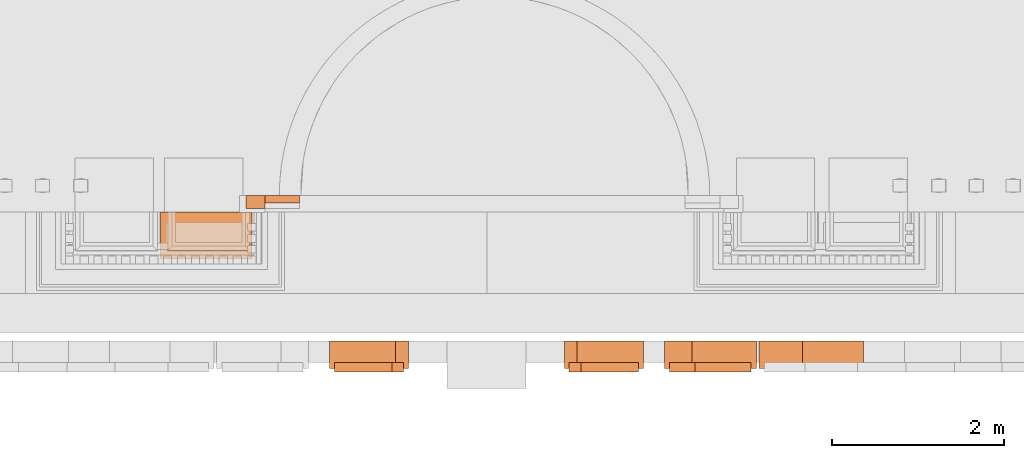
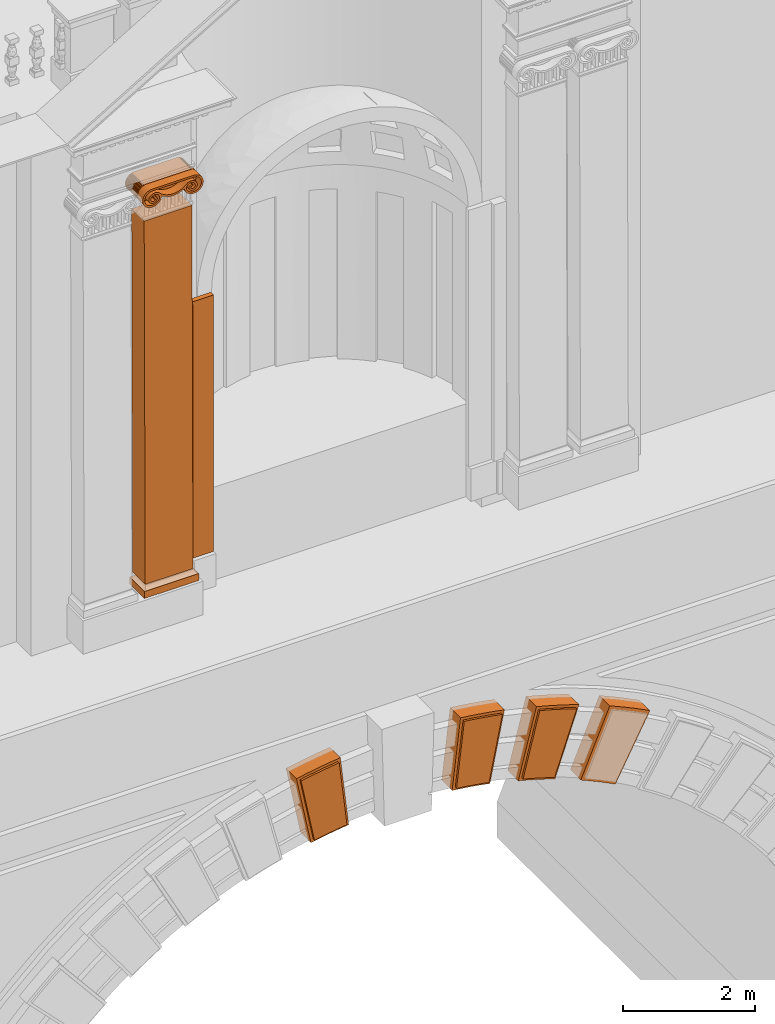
# One storey, part 8 of 44: 13 proxies.
"""IFC2X3 building model written with IfcOpenShell, lengths in metres."""

from ifc_helpers import new_model, entity, si_unit, converted_unit, derived_unit, direction, frame, frame_2d, origin, place, context, subcontext, project, spatial, polyline, circle_curve, parameter, trimmed, segment, composite_curve, rectangle, outline, extrude, material, element, save


model = new_model("IFC2X3")

# Units and contexts
model_context = context("Model", 3, precision=1e-05, world=origin(), true_north=direction((6.12303176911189e-17, 1.0)))
body_context = subcontext(model_context, "Body", "Model", "MODEL_VIEW")
ifc_project = project(units=[si_unit("LENGTHUNIT", "METRE"), si_unit("AREAUNIT", "SQUARE_METRE"), si_unit("VOLUMEUNIT", "CUBIC_METRE"), converted_unit("PLANEANGLEUNIT", "DEGREE", entity("IfcRatioMeasure", 0.0174532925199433), si_unit("PLANEANGLEUNIT", "RADIAN"), dimensions=[0, 0, 0, 0, 0, 0, 0]), si_unit("MASSUNIT", "GRAM", prefix="KILO"), derived_unit("MASSDENSITYUNIT", [(si_unit("MASSUNIT", "GRAM", prefix="KILO"), 1), (si_unit("LENGTHUNIT", "METRE"), -3)]), si_unit("TIMEUNIT", "SECOND"), si_unit("FREQUENCYUNIT", "HERTZ"), si_unit("THERMODYNAMICTEMPERATUREUNIT", "DEGREE_CELSIUS"), derived_unit("THERMALTRANSMITTANCEUNIT", [(si_unit("MASSUNIT", "GRAM", prefix="KILO"), 1), (si_unit("THERMODYNAMICTEMPERATUREUNIT", "KELVIN"), -1), (si_unit("TIMEUNIT", "SECOND"), -3)]), derived_unit("VOLUMETRICFLOWRATEUNIT", [(si_unit("LENGTHUNIT", "METRE"), 3), (si_unit("TIMEUNIT", "SECOND"), -1)]), si_unit("ELECTRICCURRENTUNIT", "AMPERE"), si_unit("ELECTRICVOLTAGEUNIT", "VOLT"), si_unit("POWERUNIT", "WATT"), si_unit("FORCEUNIT", "NEWTON", prefix="KILO"), si_unit("ILLUMINANCEUNIT", "LUX"), si_unit("LUMINOUSFLUXUNIT", "LUMEN"), si_unit("LUMINOUSINTENSITYUNIT", "CANDELA"), derived_unit("USERDEFINED", [(si_unit("MASSUNIT", "GRAM", prefix="KILO"), -1), (si_unit("LENGTHUNIT", "METRE"), -2), (si_unit("TIMEUNIT", "SECOND"), 3), (si_unit("LUMINOUSFLUXUNIT", "LUMEN"), 1)]), derived_unit("LINEARVELOCITYUNIT", [(si_unit("LENGTHUNIT", "METRE"), 1), (si_unit("TIMEUNIT", "SECOND"), -1)]), si_unit("PRESSUREUNIT", "PASCAL"), derived_unit("USERDEFINED", [(si_unit("LENGTHUNIT", "METRE"), -2), (si_unit("MASSUNIT", "GRAM", prefix="KILO"), 1), (si_unit("TIMEUNIT", "SECOND"), -2)])], contexts=[model_context])

# Site, building, storey
site_placement = place(None, origin())
site = spatial("IfcSite", under=ifc_project, at=site_placement, Name="Default", CompositionType="ELEMENT")
building_placement = place(site_placement, origin())
building = spatial("IfcBuilding", under=site, at=building_placement, CompositionType="ELEMENT")
storey_placement = place(building_placement, origin())
storey = spatial("IfcBuildingStorey", under=building, at=storey_placement, Name="Livello 1", CompositionType="ELEMENT", Elevation=0.0)

# Proxies
ifc_material_1 = material(Name="Piperno")
proxy_1_placement = place(storey_placement, frame((0.820457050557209, -0.554467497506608, 9.5136482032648)))
element("IfcBuildingElementProxy", 1, at=proxy_1_placement, inside=storey, material=ifc_material_1, Name="Stratigrafia", context=body_context, shape_type="SweptSolid", body=[
    extrude(outline(composite_curve([segment(trimmed(circle_curve(frame_2d((-1.33916111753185, 8.57467506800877), x_axis=(1.0, 0.0)), 9.33830961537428), [parameter(276.479772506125)], [parameter(281.273302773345)], True, "PARAMETER"), True, "CONTINUOUS"), segment(polyline([(0.486377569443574, -0.583459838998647), (0.231423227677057, 0.695563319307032)]), True, "CONTINUOUS"), segment(trimmed(circle_curve(frame_2d((-1.33916111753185, 8.57467506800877), x_axis=(1.0, 0.0)), 8.03412329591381), [parameter(276.479772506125)], [parameter(281.273302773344)], True, "PARAMETER"), False, "CONTINUOUS"), segment(polyline([(-0.432490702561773, 0.591875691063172), (-0.28531009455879, -0.703979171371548)]), True, "CONTINUOUS")], self_intersect=False)), frame((0.434085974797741, 0.0, 0.697158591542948), z_axis=(0.0, 1.0, 0.0), x_axis=(1.0, 0.0, 0.0)), (0.0, 0.0, 1.0), 0.32),
])
proxy_2_placement = place(storey_placement, frame((0.875762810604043, -0.594467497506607, 9.572306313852)))
element("IfcBuildingElementProxy", 2, at=proxy_2_placement, inside=storey, material=ifc_material_1, Name="Stratigrafia", context=body_context, shape_type="SweptSolid", body=[
    extrude(outline(composite_curve([segment(trimmed(circle_curve(frame_2d((-1.33809374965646, 8.5733681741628), x_axis=(1.0, 0.0)), 9.28496378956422), [parameter(276.782159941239)], [parameter(280.96038991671)], True, "PARAMETER"), True, "CONTINUOUS"), segment(polyline([(0.427259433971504, -0.542227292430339), (0.191822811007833, 0.638881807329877)]), True, "CONTINUOUS"), segment(trimmed(circle_curve(frame_2d((-1.33947047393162, 8.57665166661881), x_axis=(1.0, 0.0)), 8.08412329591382), [parameter(276.834147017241)], [parameter(280.918928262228)], True, "PARAMETER"), False, "CONTINUOUS"), segment(polyline([(-0.377494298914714, 0.549967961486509), (-0.241587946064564, -0.646622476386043)]), True, "CONTINUOUS")], self_intersect=False)), frame((0.379089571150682, 0.0, 0.640477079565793), z_axis=(0.0, 1.0, 0.0), x_axis=(1.0, 0.0, 0.0)), (0.0, 0.0, 1.0), 0.11),
])
proxy_3_placement = place(storey_placement, frame((1.9817328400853, -0.554467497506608, 9.19858808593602)))
element("IfcBuildingElementProxy", 3, at=proxy_3_placement, inside=storey, material=ifc_material_1, Name="Stratigrafia", context=body_context, shape_type="SweptSolid", body=[
    extrude(outline(composite_curve([segment(trimmed(circle_curve(frame_2d((-1.33916111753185, 8.57467506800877), x_axis=(1.0, 0.0)), 9.33830961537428), [parameter(276.479772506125)], [parameter(281.273302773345)], True, "PARAMETER"), True, "CONTINUOUS"), segment(polyline([(0.486377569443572, -0.583459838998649), (0.231423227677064, 0.695563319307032)]), True, "CONTINUOUS"), segment(trimmed(circle_curve(frame_2d((-1.33916111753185, 8.57467506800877), x_axis=(1.0, 0.0)), 8.03412329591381), [parameter(276.479772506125)], [parameter(281.273302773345)], True, "PARAMETER"), False, "CONTINUOUS"), segment(polyline([(-0.432490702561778, 0.591875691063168), (-0.285310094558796, -0.70397917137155)]), True, "CONTINUOUS")], self_intersect=False)), frame((0.508770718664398, 0.0, 0.721708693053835), z_axis=(0.0, 1.0, 0.0), x_axis=(0.991164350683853, 0.0, -0.132639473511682)), (0.0, 0.0, 1.0), 0.32),
])
proxy_4_placement = place(storey_placement, frame((2.0423707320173, -0.594467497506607, 9.26193945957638)))
element("IfcBuildingElementProxy", 4, at=proxy_4_placement, inside=storey, material=ifc_material_1, Name="Stratigrafia", context=body_context, shape_type="SweptSolid", body=[
    extrude(outline(composite_curve([segment(trimmed(circle_curve(frame_2d((-1.33809374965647, 8.5733681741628), x_axis=(1.0, 0.0)), 9.28496378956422), [parameter(276.782159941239)], [parameter(280.96038991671)], True, "PARAMETER"), True, "CONTINUOUS"), segment(polyline([(0.427259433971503, -0.54222729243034), (0.191822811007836, 0.638881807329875)]), True, "CONTINUOUS"), segment(trimmed(circle_curve(frame_2d((-1.33947047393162, 8.57665166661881), x_axis=(1.0, 0.0)), 8.08412329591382), [parameter(276.834147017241)], [parameter(280.918928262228)], True, "PARAMETER"), False, "CONTINUOUS"), segment(polyline([(-0.37749429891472, 0.54996796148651), (-0.241587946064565, -0.646622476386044)]), True, "CONTINUOUS")], self_intersect=False)), frame((0.448701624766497, 0.0, 0.660275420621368), z_axis=(0.0, 1.0, 0.0), x_axis=(0.991164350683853, 0.0, -0.132639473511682)), (0.0, 0.0, 1.0), 0.11),
])
proxy_5_placement = place(storey_placement, frame((3.07849043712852, -0.554467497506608, 8.73122797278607)))
element("IfcBuildingElementProxy", 5, at=proxy_5_placement, inside=storey, material=ifc_material_1, Name="Stratigrafia", context=body_context, shape_type="SweptSolid", body=[
    extrude(outline(composite_curve([segment(trimmed(circle_curve(frame_2d((-1.33916111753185, 8.57467506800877), x_axis=(1.0, 0.0)), 9.33830961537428), [parameter(276.479772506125)], [parameter(281.273302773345)], True, "PARAMETER"), True, "CONTINUOUS"), segment(polyline([(0.486377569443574, -0.583459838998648), (0.231423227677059, 0.695563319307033)]), True, "CONTINUOUS"), segment(trimmed(circle_curve(frame_2d((-1.33916111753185, 8.57467506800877), x_axis=(1.0, 0.0)), 8.03412329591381), [parameter(276.479772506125)], [parameter(281.273302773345)], True, "PARAMETER"), False, "CONTINUOUS"), segment(polyline([(-0.432490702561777, 0.591875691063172), (-0.285310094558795, -0.703979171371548)]), True, "CONTINUOUS")], self_intersect=False)), frame((0.584306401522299, 0.0, 0.734238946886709), z_axis=(0.0, 1.0, 0.0), x_axis=(0.958865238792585, 0.0, -0.283861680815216)), (0.0, 0.0, 1.0), 0.32),
])
proxy_6_placement = place(storey_placement, frame((-1.91175205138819, -0.554467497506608, 9.51364820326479)))
element("IfcBuildingElementProxy", 6, at=proxy_6_placement, inside=storey, material=ifc_material_1, Name="Stratigrafia", context=body_context, shape_type="SweptSolid", body=[
    extrude(outline(composite_curve([segment(polyline([(-0.667284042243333, -0.3629332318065), (0.636902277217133, -0.3629332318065)]), True, "CONTINUOUS"), segment(trimmed(circle_curve(frame_2d((8.67102557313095, -0.362933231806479), x_axis=(-0.112852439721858, 0.993611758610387)), 8.03412329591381), [parameter(78.726697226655)], [parameter(83.5202274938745)], True, "PARAMETER"), False, "CONTINUOUS"), segment(polyline([(0.665003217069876, 0.308440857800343), (-0.634621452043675, 0.417425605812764)]), True, "CONTINUOUS"), segment(trimmed(circle_curve(frame_2d((8.67102557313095, -0.362933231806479), x_axis=(-0.112852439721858, 0.993611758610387)), 9.33830961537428), [parameter(78.7266972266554)], [parameter(83.5202274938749)], True, "PARAMETER"), True, "CONTINUOUS")], self_intersect=False)), frame((0.487972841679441, 0.0, 0.69715859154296), z_axis=(0.0, 1.0, 0.0), x_axis=(0.112852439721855, 0.0, -0.993611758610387)), (0.0, 0.0, 1.0), 0.32),
])
proxy_7_placement = place(storey_placement, frame((-1.85294327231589, -0.594467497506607, 9.57230631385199)))
element("IfcBuildingElementProxy", 7, at=proxy_7_placement, inside=storey, material=ifc_material_1, Name="Stratigrafia", context=body_context, shape_type="SweptSolid", body=[
    extrude(outline(composite_curve([segment(trimmed(circle_curve(frame_2d((8.66960657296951, 0.362020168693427), x_axis=(-0.112852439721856, -0.993611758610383)), 9.28496378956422), [parameter(276.782159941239)], [parameter(280.96038991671)], True, "PARAMETER"), True, "CONTINUOUS"), segment(polyline([(-0.586980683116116, -0.363338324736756), (0.613152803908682, -0.262696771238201)]), True, "CONTINUOUS"), segment(trimmed(circle_curve(frame_2d((8.6730244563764, 0.363017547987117), x_axis=(-0.112852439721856, -0.993611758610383)), 8.08412329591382), [parameter(276.834147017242)], [parameter(280.918928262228)], True, "PARAMETER"), False, "CONTINUOUS"), segment(polyline([(0.589055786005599, 0.313017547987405), (-0.615227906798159, 0.313017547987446)]), True, "CONTINUOUS")], self_intersect=False)), frame((0.428854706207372, 0.0, 0.640477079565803), z_axis=(0.0, -1.0, 0.0), x_axis=(0.112852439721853, 0.0, -0.993611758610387)), (0.0, 0.0, -1.0), 0.11),
])
ifc_material_2 = material(Name="Travertino")
proxy_8_placement = place(storey_placement, frame((-2.87467065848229, 1.30166814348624, 13.9642305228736)))
element("IfcBuildingElementProxy", 8, at=proxy_8_placement, inside=storey, material=ifc_material_2, Name="Stratigrafia", context=body_context, shape_type="SweptSolid", body=[
    extrude(rectangle(XDim=4.7603058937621, YDim=0.151704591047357, at=frame_2d((0.0, 0.0), x_axis=(0.0, 1.0))), frame((0.0, 0.0758522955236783, 2.38015294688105), z_axis=(1.0, 0.0, 0.0), x_axis=(0.0, 1.0, 0.0)), (0.0, 0.0, 1.0), 0.219371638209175),
])
proxy_9_placement = place(storey_placement, frame((-2.65529902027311, 1.37016534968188, 13.9643763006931)))
element("IfcBuildingElementProxy", 9, at=proxy_9_placement, inside=storey, material=ifc_material_2, Name="Stratigrafia", context=body_context, shape_type="SweptSolid", body=[
    extrude(rectangle(XDim=4.76016011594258, YDim=0.0832073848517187, at=frame_2d((0.0, 0.0), x_axis=(0.0, 1.0))), frame((0.0, 0.0416036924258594, 2.38008005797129), z_axis=(1.0, 0.0, 0.0), x_axis=(0.0, 1.0, 0.0)), (0.0, 0.0, 1.0), 0.401853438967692),
])
proxy_10_placement = place(storey_placement, frame((-3.87111862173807, 0.723372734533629, 21.2504881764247)))
element("IfcBuildingElementProxy", 10, at=proxy_10_placement, inside=storey, material=ifc_material_2, Name="Stratigrafia", context=body_context, shape_type="SweptSolid", body=[
    extrude(outline(composite_curve([segment(trimmed(circle_curve(frame_2d((0.0787255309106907, -0.360085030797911), x_axis=(1.0, 0.0)), 0.16781941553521), [parameter(138.334994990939)], [parameter(7.37888686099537e-11)], True, "PARAMETER"), True, "CONTINUOUS"), segment(polyline([(0.246544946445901, -0.360085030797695), (0.201674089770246, 0.387005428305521)]), True, "CONTINUOUS"), segment(trimmed(circle_curve(frame_2d((0.0350610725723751, 0.366919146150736), x_axis=(0.992811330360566, 0.119689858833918)), 0.16781941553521), [parameter(359.999999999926)], [parameter(221.665005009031)], True, "PARAMETER"), True, "CONTINUOUS"), segment(trimmed(circle_curve(frame_2d((0.414185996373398, 0.768509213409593), x_axis=(-0.680862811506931, -0.732410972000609)), 0.720026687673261), [parameter(1.57246623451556e-11)], [parameter(0.524781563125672)], True, "PARAMETER"), True, "CONTINUOUS"), segment(trimmed(circle_curve(frame_2d((0.0654093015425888, 0.385758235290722), x_axis=(-0.675623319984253, -0.737246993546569)), 0.202201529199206), [parameter(5.00746529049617e-11)], [parameter(2.78712703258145)], True, "PARAMETER"), True, "CONTINUOUS"), segment(trimmed(circle_curve(frame_2d((0.00343027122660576, 0.311114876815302), x_axis=(-0.63911629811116, -0.76911010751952)), 0.105180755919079), [parameter(359.999999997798)], [parameter(5.29737023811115)], True, "PARAMETER"), True, "CONTINUOUS"), segment(trimmed(circle_curve(frame_2d((-0.012299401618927, 0.288731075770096), x_axis=(-0.561992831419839, -0.827142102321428)), 0.0778253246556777), [parameter(3.11948803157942e-10)], [parameter(11.8444704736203)], True, "PARAMETER"), True, "CONTINUOUS"), segment(trimmed(circle_curve(frame_2d((-0.00650885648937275, 0.302109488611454), x_axis=(-0.382936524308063, -0.923774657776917)), 0.0924010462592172), [parameter(5.64917400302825e-10)], [parameter(4.23396444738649)], True, "PARAMETER"), True, "CONTINUOUS"), segment(trimmed(circle_curve(frame_2d((0.0100793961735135, 0.315934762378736), x_axis=(0.273943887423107, 0.961745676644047)), 0.111318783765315), [parameter(171.73216175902)], [parameter(203.761085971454)], True, "PARAMETER"), True, "CONTINUOUS"), segment(trimmed(circle_curve(frame_2d((0.351764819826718, 0.021127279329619), x_axis=(-0.80538962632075, -0.592745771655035)), 0.375004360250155), [parameter(294.170004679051)], [parameter(359.999999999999)], True, "PARAMETER"), True, "CONTINUOUS"), segment(trimmed(circle_curve(frame_2d((0.0478211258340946, -0.31245721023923), x_axis=(0.387085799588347, -0.922043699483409)), 0.111318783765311), [parameter(156.238914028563)], [parameter(188.26783824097)], True, "PARAMETER"), True, "CONTINUOUS"), segment(trimmed(circle_curve(frame_2d((0.0296973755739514, -0.300716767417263), x_axis=(-0.49075017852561, 0.871300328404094)), 0.0924010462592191), [parameter(355.766035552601)], [parameter(359.999999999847)], True, "PARAMETER"), True, "CONTINUOUS"), segment(trimmed(circle_curve(frame_2d((0.0223471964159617, -0.288127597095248), x_axis=(-0.656953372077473, 0.753931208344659)), 0.0778253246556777), [parameter(348.155529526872)], [parameter(359.999999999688)], True, "PARAMETER"), True, "CONTINUOUS"), segment(trimmed(circle_curve(frame_2d((0.0406429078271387, -0.30846780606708), x_axis=(-0.726576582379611, 0.687085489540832)), 0.105180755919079), [parameter(354.702629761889)], [parameter(2.20252139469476e-09)], True, "PARAMETER"), True, "CONTINUOUS"), segment(trimmed(circle_curve(frame_2d((0.11111044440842, -0.37515631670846), x_axis=(-0.759007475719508, 0.651081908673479)), 0.202201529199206), [parameter(357.21287296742)], [parameter(359.999999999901)], True, "PARAMETER"), True, "CONTINUOUS"), segment(trimmed(circle_curve(frame_2d((0.503191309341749, -0.713410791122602), x_axis=(-0.763630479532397, 0.645653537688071)), 0.72002668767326), [parameter(359.475218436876)], [parameter(359.999999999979)], True, "PARAMETER"), True, "CONTINUOUS")], self_intersect=False), holes=[composite_curve([segment(trimmed(circle_curve(frame_2d((0.0296569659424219, -0.26637388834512), x_axis=(0.295331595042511, -0.955394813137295)), 0.160844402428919), [parameter(359.999999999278)], [parameter(5.20756886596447)], True, "PARAMETER"), True, "CONTINUOUS"), segment(trimmed(circle_curve(frame_2d((0.0478211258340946, -0.31245721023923), x_axis=(0.387085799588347, -0.922043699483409)), 0.111318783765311), [parameter(359.999999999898)], [parameter(121.742469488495)], True, "PARAMETER"), True, "CONTINUOUS"), segment(trimmed(circle_curve(frame_2d((0.351764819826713, 0.0211272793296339), x_axis=(-0.701786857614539, -0.712386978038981)), 0.341023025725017), [parameter(357.930960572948)], [parameter(1.17553301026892e-11)], True, "PARAMETER"), False, "CONTINUOUS"), segment(trimmed(circle_curve(frame_2d((0.351764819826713, 0.0211272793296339), x_axis=(-0.701786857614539, -0.712386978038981)), 0.341023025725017), [parameter(276.015284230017)], [parameter(357.930960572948)], True, "PARAMETER"), False, "CONTINUOUS"), segment(trimmed(circle_curve(frame_2d((0.0100793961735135, 0.315934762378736), x_axis=(0.273943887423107, 0.961745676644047)), 0.111318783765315), [parameter(238.257530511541)], [parameter(1.04576637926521e-10)], True, "PARAMETER"), True, "CONTINUOUS"), segment(trimmed(circle_curve(frame_2d((-0.00243848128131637, 0.268008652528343), x_axis=(0.178857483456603, 0.983874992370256)), 0.160844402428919), [parameter(354.792431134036)], [parameter(3.45942571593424e-10)], True, "PARAMETER"), True, "CONTINUOUS"), segment(trimmed(circle_curve(frame_2d((0.0120654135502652, 0.348551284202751), x_axis=(-0.97200284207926, 0.234969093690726)), 0.0790065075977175), [parameter(273.188220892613)], [parameter(2.02537722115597e-11)], True, "PARAMETER"), True, "CONTINUOUS"), segment(trimmed(circle_curve(frame_2d((0.0219940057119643, 0.352022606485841), x_axis=(-0.899948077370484, -0.435997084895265)), 0.0880266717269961), [parameter(324.278715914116)], [parameter(1.66915509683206e-11)], True, "PARAMETER"), True, "CONTINUOUS"), segment(trimmed(circle_curve(frame_2d((0.0068313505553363, 0.344085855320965), x_axis=(-0.691793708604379, -0.722095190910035)), 0.0709226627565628), [parameter(339.191403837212)], [parameter(359.999999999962)], True, "PARAMETER"), True, "CONTINUOUS"), segment(trimmed(circle_curve(frame_2d((-0.00441833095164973, 0.331612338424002), x_axis=(-0.0602856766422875, -0.998181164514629)), 0.0541354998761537), [parameter(319.148653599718)], [parameter(359.999999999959)], True, "PARAMETER"), True, "CONTINUOUS"), segment(polyline([(-0.00768192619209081, 0.277575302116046), (0.00455059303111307, 0.277674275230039)]), True, "CONTINUOUS"), segment(polyline([(0.00455059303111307, 0.277674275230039), (0.0163739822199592, 0.280802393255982)]), True, "CONTINUOUS"), segment(polyline([(0.0163739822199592, 0.280802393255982), (0.0270458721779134, 0.286763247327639)]), True, "CONTINUOUS"), segment(polyline([(0.0270458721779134, 0.286763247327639), (0.0358961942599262, 0.295182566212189)]), True, "CONTINUOUS"), segment(polyline([(0.0358961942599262, 0.295182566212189), (0.0423692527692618, 0.30553171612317)]), True, "CONTINUOUS"), segment(polyline([(0.0423692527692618, 0.30553171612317), (0.0460586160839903, 0.317160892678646)]), True, "CONTINUOUS"), segment(polyline([(0.0460586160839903, 0.317160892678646), (0.046732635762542, 0.329339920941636)]), True, "CONTINUOUS"), segment(polyline([(0.046732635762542, 0.329339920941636), (0.0443489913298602, 0.341304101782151)]), True, "CONTINUOUS"), segment(trimmed(circle_curve(frame_2d((0.0290576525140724, 0.333702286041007), x_axis=(-0.983154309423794, -0.182777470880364)), 0.0170766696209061), [parameter(195.90186506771)], [parameter(3.20599911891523e-12)], True, "PARAMETER"), True, "CONTINUOUS"), segment(trimmed(circle_curve(frame_2d((-0.00183320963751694, 0.32592647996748), x_axis=(0.949609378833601, 0.313435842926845)), 0.0148501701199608), [parameter(257.204928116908)], [parameter(360.0)], True, "PARAMETER"), False, "CONTINUOUS"), segment(trimmed(circle_curve(frame_2d((-0.00196165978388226, 0.326174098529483), x_axis=(0.102214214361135, -0.994762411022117)), 0.0151092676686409), [parameter(347.420423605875)], [parameter(4.57389207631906e-10)], True, "PARAMETER"), False, "CONTINUOUS"), segment(trimmed(circle_curve(frame_2d((-0.00394145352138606, 0.33230876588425), x_axis=(0.0101038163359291, -0.999948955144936)), 0.0211414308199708), [parameter(315.114326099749)], [parameter(359.999999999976)], True, "PARAMETER"), False, "CONTINUOUS"), segment(trimmed(circle_curve(frame_2d((0.00683135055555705, 0.344085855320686), x_axis=(-0.688455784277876, -0.725278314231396)), 0.037097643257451), [parameter(338.739254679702)], [parameter(2.05438387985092e-10)], True, "PARAMETER"), False, "CONTINUOUS"), segment(trimmed(circle_curve(frame_2d((0.021994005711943, 0.352022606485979), x_axis=(-0.898883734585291, -0.43818721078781)), 0.0542016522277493), [parameter(325.321462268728)], [parameter(1.02286638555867e-10)], True, "PARAMETER"), False, "CONTINUOUS"), segment(trimmed(circle_curve(frame_2d((0.012065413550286, 0.348551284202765), x_axis=(-0.966121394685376, 0.258088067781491)), 0.0451814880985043), [parameter(274.521210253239)], [parameter(2.59533262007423e-11)], True, "PARAMETER"), False, "CONTINUOUS"), segment(trimmed(circle_curve(frame_2d((-0.00243848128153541, 0.268008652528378), x_axis=(0.17861447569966, 0.983919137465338)), 0.127019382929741), [parameter(354.831611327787)], [parameter(359.999999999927)], True, "PARAMETER"), False, "CONTINUOUS"), segment(trimmed(circle_curve(frame_2d((0.00992627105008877, 0.315856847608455), x_axis=(0.276878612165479, 0.960904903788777)), 0.0776109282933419), [parameter(169.426101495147)], [parameter(1.4538951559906e-10)], True, "PARAMETER"), False, "CONTINUOUS"), segment(trimmed(circle_curve(frame_2d((-0.00650885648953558, 0.302109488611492), x_axis=(-0.38373334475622, -0.923443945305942)), 0.0585760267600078), [parameter(2.60703706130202e-10)], [parameter(4.28424685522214)], True, "PARAMETER"), False, "CONTINUOUS"), segment(trimmed(circle_curve(frame_2d((-0.012299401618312, 0.288731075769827), x_axis=(-0.56074832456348, -0.827986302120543)), 0.0440003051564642), [parameter(3.41464350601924e-11)], [parameter(11.8204528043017)], True, "PARAMETER"), False, "CONTINUOUS"), segment(trimmed(circle_curve(frame_2d((0.00347121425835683, 0.311169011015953), x_axis=(-0.639149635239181, -0.769082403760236)), 0.071423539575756), [parameter(359.999999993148)], [parameter(5.23917008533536)], True, "PARAMETER"), False, "CONTINUOUS"), segment(trimmed(circle_curve(frame_2d((0.0654093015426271, 0.385758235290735), x_axis=(-0.67576849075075, -0.737113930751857)), 0.168376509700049), [parameter(9.52130849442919e-11)], [parameter(2.79841011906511)], True, "PARAMETER"), False, "CONTINUOUS"), segment(trimmed(circle_curve(frame_2d((0.41418599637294, 0.768509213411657), x_axis=(-0.681339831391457, -0.731967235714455)), 0.68620166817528), [parameter(1.32311074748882e-12)], [parameter(0.565071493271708)], True, "PARAMETER"), False, "CONTINUOUS"), segment(trimmed(circle_curve(frame_2d((0.0350610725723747, 0.366919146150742), x_axis=(0.992811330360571, 0.119689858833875)), 0.133994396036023), [parameter(360.0)], [parameter(221.839978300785)], True, "PARAMETER"), False, "CONTINUOUS"), segment(polyline([(0.16809222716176, 0.382956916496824), (0.212470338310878, -0.351910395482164)]), True, "CONTINUOUS"), segment(trimmed(circle_curve(frame_2d((0.0787255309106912, -0.36008503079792), x_axis=(1.0, 0.0)), 0.133994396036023), [parameter(138.160021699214)], [parameter(3.49763230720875)], True, "PARAMETER"), False, "CONTINUOUS"), segment(trimmed(circle_curve(frame_2d((0.503191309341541, -0.713410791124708), x_axis=(-0.764050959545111, 0.645155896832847)), 0.68620166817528), [parameter(359.434928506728)], [parameter(359.999999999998)], True, "PARAMETER"), False, "CONTINUOUS"), segment(trimmed(circle_curve(frame_2d((0.11111044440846, -0.375156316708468), x_axis=(-0.759135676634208, 0.65093242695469)), 0.168376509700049), [parameter(357.201589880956)], [parameter(359.999999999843)], True, "PARAMETER"), False, "CONTINUOUS"), segment(trimmed(circle_curve(frame_2d((0.0406900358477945, -0.308516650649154), x_axis=(-0.726606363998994, 0.687053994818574)), 0.0714235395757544), [parameter(354.760829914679)], [parameter(6.52532776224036e-09)], True, "PARAMETER"), False, "CONTINUOUS"), segment(trimmed(circle_curve(frame_2d((0.02234719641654, -0.288127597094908), x_axis=(-0.655818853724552, 0.754918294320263)), 0.0440003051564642), [parameter(348.179547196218)], [parameter(359.999999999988)], True, "PARAMETER"), False, "CONTINUOUS"), segment(trimmed(circle_curve(frame_2d((0.0296973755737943, -0.30071676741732), x_axis=(-0.491501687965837, 0.870876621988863)), 0.0585760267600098), [parameter(355.715753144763)], [parameter(1.29664853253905e-10)], True, "PARAMETER"), False, "CONTINUOUS"), segment(trimmed(circle_curve(frame_2d((0.04765977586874, -0.312398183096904), x_axis=(0.389898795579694, -0.92085771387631)), 0.0776109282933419), [parameter(359.999999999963)], [parameter(190.573898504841)], True, "PARAMETER"), False, "CONTINUOUS"), segment(trimmed(circle_curve(frame_2d((0.0296569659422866, -0.26637388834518), x_axis=(0.295095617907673, -0.955467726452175)), 0.127019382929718), [parameter(1.52310402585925e-10)], [parameter(5.1683886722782)], True, "PARAMETER"), False, "CONTINUOUS"), segment(trimmed(circle_curve(frame_2d((0.0536967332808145, -0.344601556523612), x_axis=(-0.928285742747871, -0.371867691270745)), 0.0451814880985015), [parameter(359.999999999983)], [parameter(85.4787897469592)], True, "PARAMETER"), False, "CONTINUOUS"), segment(trimmed(circle_curve(frame_2d((0.0639694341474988, -0.34685957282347), x_axis=(-0.944868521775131, 0.327449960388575)), 0.0542016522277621), [parameter(359.999999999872)], [parameter(34.6785377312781)], True, "PARAMETER"), False, "CONTINUOUS"), segment(trimmed(circle_curve(frame_2d((0.0479658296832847, -0.340794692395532), x_axis=(-0.770315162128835, 0.63766335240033)), 0.0370976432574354), [parameter(359.999999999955)], [parameter(21.2607453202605)], True, "PARAMETER"), False, "CONTINUOUS"), segment(trimmed(circle_curve(frame_2d((0.0358608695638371, -0.330391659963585), x_axis=(-0.109652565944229, 0.993969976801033)), 0.0211414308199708), [parameter(359.999999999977)], [parameter(44.8856739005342)], True, "PARAMETER"), False, "CONTINUOUS"), segment(trimmed(circle_curve(frame_2d((0.0370921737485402, -0.324064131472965), x_axis=(-0.0175835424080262, 0.999845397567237)), 0.0151092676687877), [parameter(359.999999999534)], [parameter(12.5795763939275)], True, "PARAMETER"), False, "CONTINUOUS"), segment(trimmed(circle_curve(frame_2d((0.0371900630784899, -0.323802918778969), x_axis=(0.980298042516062, -0.197524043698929)), 0.0148501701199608), [parameter(3.05333249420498e-13)], [parameter(102.795071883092)], True, "PARAMETER"), False, "CONTINUOUS"), segment(trimmed(circle_curve(frame_2d((0.0687895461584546, -0.327825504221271), x_axis=(-0.997963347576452, 0.0637899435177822)), 0.0170766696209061), [parameter(359.999999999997)], [parameter(164.098134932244)], True, "PARAMETER"), True, "CONTINUOUS"), segment(polyline([(0.0848808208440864, -0.33354245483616), (0.0858153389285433, -0.321378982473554)]), True, "CONTINUOUS"), segment(polyline([(0.0858153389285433, -0.321378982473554), (0.0836884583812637, -0.309368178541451)]), True, "CONTINUOUS"), segment(polyline([(0.0836884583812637, -0.309368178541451), (0.0786337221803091, -0.298264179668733)]), True, "CONTINUOUS"), segment(polyline([(0.0786337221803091, -0.298264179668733), (0.0709685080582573, -0.288764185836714)]), True, "CONTINUOUS"), segment(polyline([(0.0709685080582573, -0.288764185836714), (0.0611741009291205, -0.281464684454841)]), True, "CONTINUOUS"), segment(polyline([(0.0611741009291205, -0.281464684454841), (0.049865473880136, -0.276823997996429)]), True, "CONTINUOUS"), segment(polyline([(0.049865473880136, -0.276823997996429), (0.0377526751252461, -0.275133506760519)]), True, "CONTINUOUS"), segment(polyline([(0.0377526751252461, -0.275133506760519), (0.0255962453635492, -0.276499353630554)]), True, "CONTINUOUS"), segment(trimmed(circle_curve(frame_2d((0.0353040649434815, -0.329757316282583), x_axis=(-0.179324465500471, 0.983789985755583)), 0.054135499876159), [parameter(4.21868772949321e-11)], [parameter(40.8513464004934)], True, "PARAMETER"), True, "CONTINUOUS"), segment(trimmed(circle_curve(frame_2d((0.047965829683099, -0.340794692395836), x_axis=(-0.773248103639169, 0.634103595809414)), 0.0709226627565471), [parameter(1.98110389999e-10)], [parameter(20.8085961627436)], True, "PARAMETER"), True, "CONTINUOUS"), segment(trimmed(circle_curve(frame_2d((0.0639694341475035, -0.346859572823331), x_axis=(-0.945663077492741, 0.325148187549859)), 0.0880266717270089), [parameter(359.999999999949)], [parameter(35.7212840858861)], True, "PARAMETER"), True, "CONTINUOUS"), segment(trimmed(circle_curve(frame_2d((0.053696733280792, -0.344601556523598), x_axis=(-0.936892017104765, -0.349618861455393)), 0.0790065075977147), [parameter(359.999999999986)], [parameter(86.8117791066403)], True, "PARAMETER"), True, "CONTINUOUS")], self_intersect=False)]), frame((0.533458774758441, 0.0, 0.11240374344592), z_axis=(0.0, 1.0, 0.0), x_axis=(-0.0599527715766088, 0.0, 0.998201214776)), (0.0, 0.0, 1.0), 0.54),
])
proxy_11_placement = place(storey_placement, frame((-3.87103418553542, 0.883372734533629, 21.2505882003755)))
element("IfcBuildingElementProxy", 11, at=proxy_11_placement, inside=storey, material=ifc_material_2, Name="Stratigrafia", context=body_context, shape_type="SweptSolid", body=[
    extrude(outline(composite_curve([segment(polyline([(-0.374218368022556, -0.123559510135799), (0.374218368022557, -0.123559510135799)]), True, "CONTINUOUS"), segment(trimmed(circle_curve(frame_2d((0.36415712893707, 0.0439580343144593), x_axis=(0.0599527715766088, -0.998201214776)), 0.16781941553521), [parameter(359.999999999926)], [parameter(238.247282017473)], True, "PARAMETER"), True, "CONTINUOUS"), segment(polyline([(0.216417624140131, 0.123559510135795), (-0.21641762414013, 0.123559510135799)]), True, "CONTINUOUS"), segment(trimmed(circle_curve(frame_2d((-0.364157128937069, 0.0439580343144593), x_axis=(-0.0599527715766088, -0.998201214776)), 0.16781941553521), [parameter(121.752717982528)], [parameter(7.45013128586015e-11)], True, "PARAMETER"), True, "CONTINUOUS")], self_intersect=False)), frame((0.533374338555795, 0.0, 0.213257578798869), z_axis=(0.0, 1.0, 0.0), x_axis=(1.0, 0.0, 0.0)), (0.0, 0.0, 1.0), 0.38),
])
proxy_12_placement = place(storey_placement, frame((-3.78809197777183, 0.813372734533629, 13.9667189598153)))
element("IfcBuildingElementProxy", 12, at=proxy_12_placement, inside=storey, material=ifc_material_1, Name="Stratigrafia", context=body_context, shape_type="SweptSolid", body=[
    extrude(rectangle(XDim=0.129364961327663, YDim=0.45, at=frame_2d((0.0, 0.0), x_axis=(0.0, 1.0))), frame((0.0, 0.225, 0.0646824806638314), z_axis=(1.0, 0.0, 0.0), x_axis=(0.0, 1.0, 0.0)), (0.0, 0.0, 1.0), 0.956412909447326),
])
proxy_13_placement = place(storey_placement, frame((-3.75221202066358, 0.883372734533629, 14.1670132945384)))
element("IfcBuildingElementProxy", 13, at=proxy_13_placement, inside=storey, material=ifc_material_1, Name="Stratigrafia", context=body_context, shape_type="SweptSolid", body=[
    extrude(rectangle(XDim=6.74573124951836, YDim=0.38, at=frame_2d((1.2490009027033e-16, 0.0), x_axis=(0.0, 1.0))), frame((0.00875481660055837, 0.19, 3.37285426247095), z_axis=(0.999996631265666, 0.0, 0.00259566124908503), x_axis=(0.0, 1.0, 0.0)), (0.0, -0.00259566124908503, 0.999996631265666), 0.838920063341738),
])

save(model, "model.ifc")
